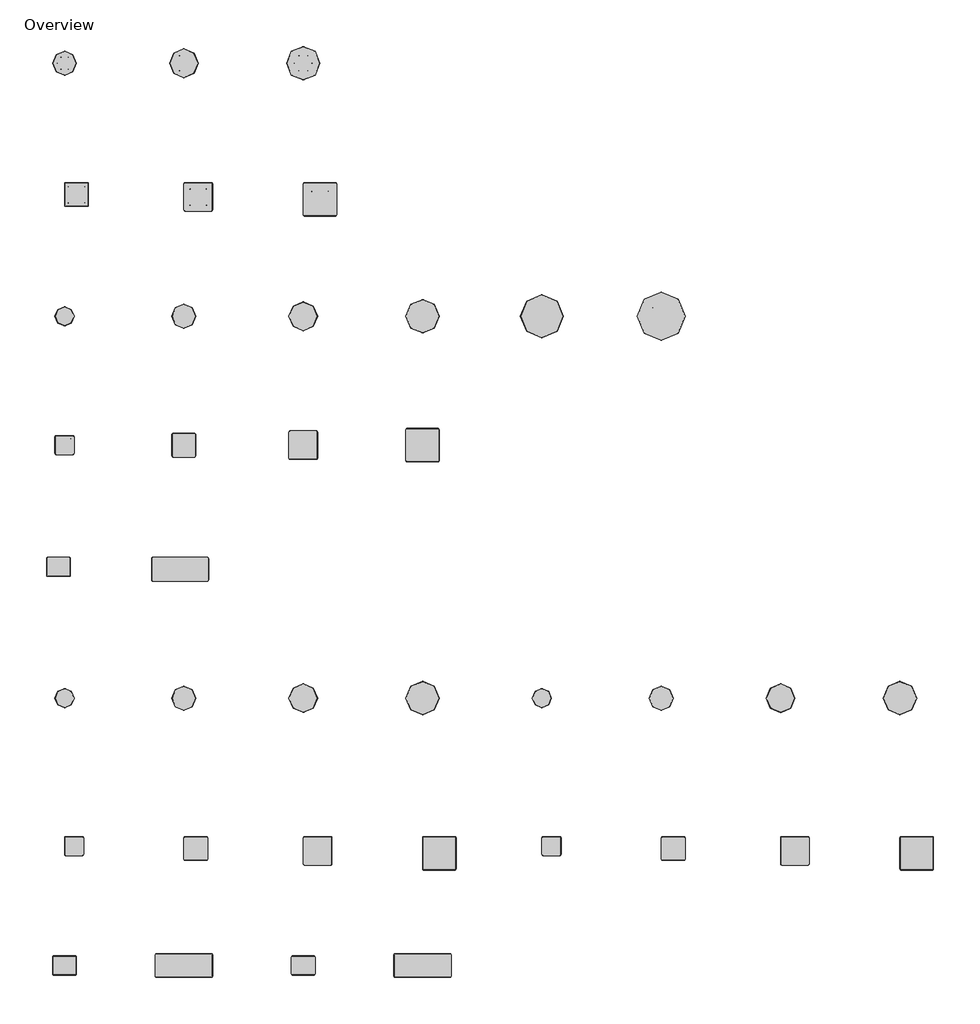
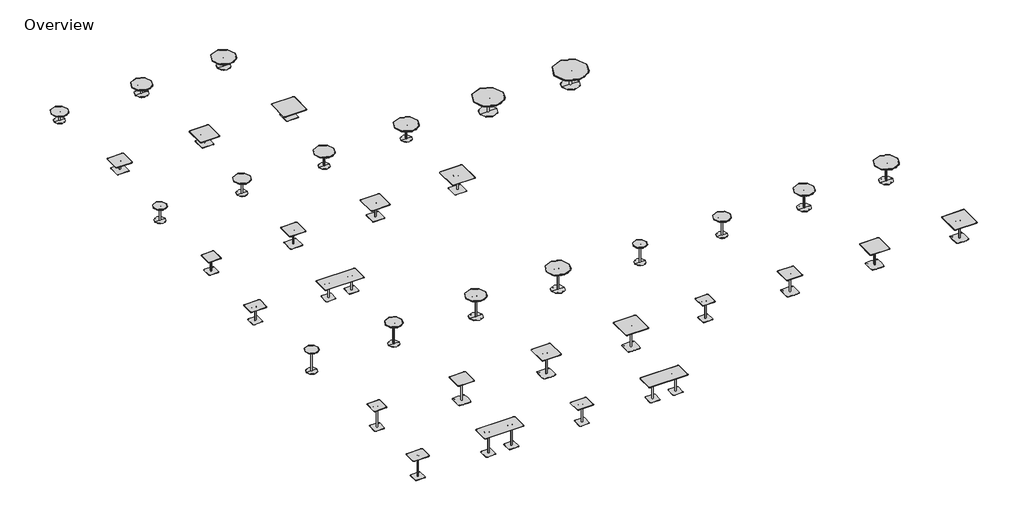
# One storey, incomplete: 38 furniture elements.
"""IFC4 building model written with IfcOpenShell, lengths in millimetres."""

from ifc_helpers import new_model, si_unit, origin, place, context, project, spatial, transform, mapped, element, save
from components import furniture_811100f7, furniture_10a75f7b, furniture_5980c282, furniture_6edd4ddf, furniture_d6c9ae74, furniture_c2a7fe05, furniture_79ca4e86, furniture_07d230b4, furniture_dcd677de, furniture_4e51bd29, furniture_301676fc, furniture_18e4f8cc, furniture_91c41395, furniture_204b8a26, furniture_3e236883, furniture_87283390, furniture_814abe16, furniture_5131879e, furniture_965f53b5, furniture_0e636609, furniture_fb8f0c13, furniture_24diameter_648c9b66, furniture_30dia_c0a6456b, furniture_30diameter_0b807904, furniture_36dia_86788407, furniture_36diameter_d4917d93, furniture_42dia_f3805051, furniture_42diameter_4c75da65, furniture_54diameter_4dd13a8e, furniture_60diameter_19c09006, bar_height_24dia_15a52b91, bar_height_30dia_bfdacb72, bar_height_36dia_994a4e56, bar_height_42dia_b9ada302, counter_height_24dia_68ba56fe, counter_height_30dia_2e3c6b03, counter_height_36dia_bfe26b46, counter_height_42dia_a2212860

model = new_model("IFC4")

# Units and contexts
model_context = context("Model", 3, world=origin())
ifc_project = project(units=[si_unit("LENGTHUNIT", "METRE", prefix="MILLI")], contexts=[model_context])

# Site, building, storey
site = spatial("IfcSite", under=ifc_project)
building = spatial("IfcBuilding", under=site)
storey = spatial("IfcBuildingStorey", under=building, Name="Overview", Elevation=0.0)

# Furniture
placement = place(None, origin())
furniture_shape = furniture_811100f7(model_context)
element("IfcFurniture", 1, ObjectType="Coalesse_AM_Table_Conference_Montara650_WorkHeight_Rectangular : 30D x 72W", at=placement, inside=storey, context=model_context, shape_type="MappedRepresentation", body=[
    mapped(furniture_shape, transform((-9624.7244889, -5738.5299366, 0.0), x_axis=(1.0, 0.0, 0.0), y_axis=(0.0, 1.0, 0.0), z_axis=(0.0, 0.0, 1.0))),
])
furniture_2_shape = furniture_10a75f7b(model_context)
element("IfcFurniture", 2, ObjectType="Coalesse_AM_Table_Occasional_Montara650Table_CafeHeight_Rectangular : Bar Height - 24D x 30W", at=placement, inside=storey, context=model_context, shape_type="MappedRepresentation", body=[
    mapped(furniture_2_shape, transform((-12783.8314372, -18387.7299366, 0.0), x_axis=(1.0, 0.0, 0.0), y_axis=(0.0, 1.0, 0.0), z_axis=(0.0, 0.0, 1.0))),
])
furniture_3_shape = furniture_5980c282(model_context)
element("IfcFurniture", 3, ObjectType="Coalesse_AM_Table_Occasional_Montara650Table_Square : 30D x 30W", at=placement, inside=storey, context=model_context, shape_type="MappedRepresentation", body=[
    mapped(furniture_3_shape, transform((-12936.2314372, 6224.8700634, 0.0), x_axis=(1.0, 0.0, 0.0), y_axis=(0.0, 1.0, 0.0), z_axis=(0.0, 0.0, 1.0))),
])
furniture_4_shape = furniture_6edd4ddf(model_context)
element("IfcFurniture", 4, ObjectType="Coalesse_AM_Table_Occasional_Montara650Table_Square : 36D x 36W", at=placement, inside=storey, context=model_context, shape_type="MappedRepresentation", body=[
    mapped(furniture_4_shape, transform((-9050.0314372, 6148.6700634, 0.0), x_axis=(1.0, 0.0, 0.0), y_axis=(0.0, 1.0, 0.0), z_axis=(0.0, 0.0, 1.0))),
])
furniture_5_shape = furniture_d6c9ae74(model_context)
element("IfcFurniture", 5, ObjectType="Coalesse_AM_Table_Occasional_Montara650Table_Square : 42D x 42W", at=placement, inside=storey, context=model_context, shape_type="MappedRepresentation", body=[
    mapped(furniture_5_shape, transform((-5163.8314372, 6072.4700634, 0.0), x_axis=(1.0, 0.0, 0.0), y_axis=(0.0, 1.0, 0.0), z_axis=(0.0, 0.0, 1.0))),
])
furniture_6_shape = furniture_c2a7fe05(model_context)
element("IfcFurniture", 6, ObjectType="Coalesse_AM_Table_Conference_Montara650_WorkHeight_Square : 30D x 30W", at=placement, inside=storey, context=model_context, shape_type="MappedRepresentation", body=[
    mapped(furniture_6_shape, transform((-9507.2314372, -1776.1299366, 0.0), x_axis=(1.0, 0.0, 0.0), y_axis=(0.0, 1.0, 0.0), z_axis=(0.0, 0.0, 1.0))),
])
furniture_7_shape = furniture_79ca4e86(model_context)
element("IfcFurniture", 7, ObjectType="Coalesse_AM_Table_Conference_Montara650_WorkHeight_Square : 36D x 36W", at=placement, inside=storey, context=model_context, shape_type="MappedRepresentation", body=[
    mapped(furniture_7_shape, transform((-5697.2314372, -1776.1299366, 0.0), x_axis=(1.0, 0.0, 0.0), y_axis=(0.0, 1.0, 0.0), z_axis=(0.0, 0.0, 1.0))),
])
furniture_8_shape = furniture_07d230b4(model_context)
element("IfcFurniture", 8, ObjectType="Coalesse_AM_Table_Conference_Montara650_WorkHeight_Square : 42D x 42W", at=placement, inside=storey, context=model_context, shape_type="MappedRepresentation", body=[
    mapped(furniture_8_shape, transform((-1887.2314372, -1776.1299366, 0.0), x_axis=(1.0, 0.0, 0.0), y_axis=(0.0, 1.0, 0.0), z_axis=(0.0, 0.0, 1.0))),
])
furniture_9_shape = furniture_dcd677de(model_context)
element("IfcFurniture", 9, ObjectType="Coalesse_AM_Table_Conference_Montara650_WorkHeight_Square : 24D x 24W", at=placement, inside=storey, context=model_context, shape_type="MappedRepresentation", body=[
    mapped(furniture_9_shape, transform((-13317.2314372, -1776.1299366, 0.0), x_axis=(1.0, 0.0, 0.0), y_axis=(0.0, 1.0, 0.0), z_axis=(0.0, 0.0, 1.0))),
])
furniture_10_shape = furniture_4e51bd29(model_context)
element("IfcFurniture", 10, ObjectType="Coalesse_AM_Table_Occasional_Montara650Table_CafeHeight_Square : Bar Height - 30D x 30W", at=placement, inside=storey, context=model_context, shape_type="MappedRepresentation", body=[
    mapped(furniture_10_shape, transform((-9126.2314372, -14653.9299366, 0.0), x_axis=(1.0, 0.0, 0.0), y_axis=(0.0, 1.0, 0.0), z_axis=(0.0, 0.0, 1.0))),
])
furniture_11_shape = furniture_301676fc(model_context)
element("IfcFurniture", 11, ObjectType="Coalesse_AM_Table_Occasional_Montara650Table_CafeHeight_Square : Bar Height - 36D x 36W", at=placement, inside=storey, context=model_context, shape_type="MappedRepresentation", body=[
    mapped(furniture_11_shape, transform((-5240.0314372, -14730.1299366, 0.0), x_axis=(1.0, 0.0, 0.0), y_axis=(0.0, 1.0, 0.0), z_axis=(0.0, 0.0, 1.0))),
])
furniture_12_shape = furniture_18e4f8cc(model_context)
element("IfcFurniture", 12, ObjectType="Coalesse_AM_Table_Occasional_Montara650Table_CafeHeight_Square : Counter Height - 42D x 42W", at=placement, inside=storey, context=model_context, shape_type="MappedRepresentation", body=[
    mapped(furniture_12_shape, transform((13886.1685628, -14806.3299366, 0.0), x_axis=(1.0, 0.0, 0.0), y_axis=(0.0, 1.0, 0.0), z_axis=(0.0, 0.0, 1.0))),
])
furniture_13_shape = furniture_91c41395(model_context)
element("IfcFurniture", 13, ObjectType="Coalesse_AM_Table_Occasional_Montara650Table_CafeHeight_Square : Counter Height - 24D x 24W", at=placement, inside=storey, context=model_context, shape_type="MappedRepresentation", body=[
    mapped(furniture_13_shape, transform((2227.5685628, -14577.7299366, 0.0), x_axis=(1.0, 0.0, 0.0), y_axis=(0.0, 1.0, 0.0), z_axis=(0.0, 0.0, 1.0))),
])
furniture_14_shape = furniture_204b8a26(model_context)
element("IfcFurniture", 14, ObjectType="Coalesse_AM_Table_Occasional_Montara650Table_CafeHeight_Square : Bar Height - 24D x 24W", at=placement, inside=storey, context=model_context, shape_type="MappedRepresentation", body=[
    mapped(furniture_14_shape, transform((-13012.4314372, -14577.7299366, 0.0), x_axis=(1.0, 0.0, 0.0), y_axis=(0.0, 1.0, 0.0), z_axis=(0.0, 0.0, 1.0))),
])
furniture_15_shape = furniture_3e236883(model_context)
element("IfcFurniture", 15, ObjectType="Coalesse_AM_Table_Occasional_Montara650Table_CafeHeight_Square : Counter Height - 30D x 30W", at=placement, inside=storey, context=model_context, shape_type="MappedRepresentation", body=[
    mapped(furniture_15_shape, transform((6113.7685628, -14653.9299366, 0.0), x_axis=(1.0, 0.0, 0.0), y_axis=(0.0, 1.0, 0.0), z_axis=(0.0, 0.0, 1.0))),
])
furniture_16_shape = furniture_87283390(model_context)
element("IfcFurniture", 16, ObjectType="Coalesse_AM_Table_Occasional_Montara650Table_CafeHeight_Square : Counter Height - 36D x 36W", at=placement, inside=storey, context=model_context, shape_type="MappedRepresentation", body=[
    mapped(furniture_16_shape, transform((9999.9685628, -14730.1299366, 0.0), x_axis=(1.0, 0.0, 0.0), y_axis=(0.0, 1.0, 0.0), z_axis=(0.0, 0.0, 1.0))),
])
furniture_17_shape = furniture_814abe16(model_context)
element("IfcFurniture", 17, ObjectType="Coalesse_AM_Table_Occasional_Montara650Table_CafeHeight_Square : Bar Height - 42D x 42W", at=placement, inside=storey, context=model_context, shape_type="MappedRepresentation", body=[
    mapped(furniture_17_shape, transform((-1353.8314372, -14806.3299366, 0.0), x_axis=(1.0, 0.0, 0.0), y_axis=(0.0, 1.0, 0.0), z_axis=(0.0, 0.0, 1.0))),
])
furniture_18_shape = furniture_5131879e(model_context)
element("IfcFurniture", 18, ObjectType="Coalesse_AM_Table_Occasional_Montara650Table_CafeHeight_Rectangular : Counter Height - 24D x 30W", at=placement, inside=storey, context=model_context, shape_type="MappedRepresentation", body=[
    mapped(furniture_18_shape, transform((-5163.8314372, -18387.7299366, 0.0), x_axis=(1.0, 0.0, 0.0), y_axis=(0.0, 1.0, 0.0), z_axis=(0.0, 0.0, 1.0))),
])
furniture_19_shape = furniture_965f53b5(model_context)
element("IfcFurniture", 19, ObjectType="Coalesse_AM_Table_Occasional_Montara650Table_CafeHeight_Rectangular : Counter Height - 30D x 72W", at=placement, inside=storey, context=model_context, shape_type="MappedRepresentation", body=[
    mapped(furniture_19_shape, transform((-1887.2314372, -18387.7299366, 0.0), x_axis=(1.0, 0.0, 0.0), y_axis=(0.0, 1.0, 0.0), z_axis=(0.0, 0.0, 1.0))),
])
furniture_20_shape = furniture_0e636609(model_context)
element("IfcFurniture", 20, ObjectType="Coalesse_AM_Table_Occasional_Montara650Table_CafeHeight_Rectangular : Bar Height - 30D x 72W", at=placement, inside=storey, context=model_context, shape_type="MappedRepresentation", body=[
    mapped(furniture_20_shape, transform((-9507.2314372, -18387.7299366, 0.0), x_axis=(1.0, 0.0, 0.0), y_axis=(0.0, 1.0, 0.0), z_axis=(0.0, 0.0, 1.0))),
])
furniture_21_shape = furniture_fb8f0c13(model_context)
element("IfcFurniture", 21, ObjectType="Coalesse_AM_Table_Conference_Montara650_WorkHeight_Rectangular : 24D x 30W", at=placement, inside=storey, context=model_context, shape_type="MappedRepresentation", body=[
    mapped(furniture_21_shape, transform((-12977.5244889, -5662.3299366, 0.0), x_axis=(1.0, 0.0, 0.0), y_axis=(0.0, 1.0, 0.0), z_axis=(0.0, 0.0, 1.0))),
])
furniture_24diameter_shape = furniture_24diameter_648c9b66(model_context)
element("IfcFurniture", 22, ObjectType="Coalesse_AM_Table_Conference_Montara650_WorkHeight_Round : 24Diameter", at=placement, inside=storey, context=model_context, shape_type="MappedRepresentation", body=[
    mapped(furniture_24diameter_shape, transform((-13317.2314372, 2338.6700634, 0.0), x_axis=(1.0, 0.0, 0.0), y_axis=(0.0, 1.0, 0.0), z_axis=(0.0, 0.0, 1.0))),
])
furniture_30dia_shape = furniture_30dia_c0a6456b(model_context)
element("IfcFurniture", 23, ObjectType="Coalesse_AM_Table_Occasional_Montara650Table_Round : 30Dia", at=placement, inside=storey, context=model_context, shape_type="MappedRepresentation", body=[
    mapped(furniture_30dia_shape, transform((-13317.2314372, 10415.8700634, 0.0), x_axis=(1.0, 0.0, 0.0), y_axis=(0.0, 1.0, 0.0), z_axis=(0.0, 0.0, 1.0))),
])
furniture_30diameter_shape = furniture_30diameter_0b807904(model_context)
element("IfcFurniture", 24, ObjectType="Coalesse_AM_Table_Conference_Montara650_WorkHeight_Round : 30Diameter", at=placement, inside=storey, context=model_context, shape_type="MappedRepresentation", body=[
    mapped(furniture_30diameter_shape, transform((-9507.2314372, 2338.6700634, 0.0), x_axis=(1.0, 0.0, 0.0), y_axis=(0.0, 1.0, 0.0), z_axis=(0.0, 0.0, 1.0))),
])
furniture_36dia_shape = furniture_36dia_86788407(model_context)
element("IfcFurniture", 25, ObjectType="Coalesse_AM_Table_Occasional_Montara650Table_Round : 36Dia", at=placement, inside=storey, context=model_context, shape_type="MappedRepresentation", body=[
    mapped(furniture_36dia_shape, transform((-9507.2314372, 10415.8700634, 0.0), x_axis=(1.0, 0.0, 0.0), y_axis=(0.0, 1.0, 0.0), z_axis=(0.0, 0.0, 1.0))),
])
furniture_36diameter_shape = furniture_36diameter_d4917d93(model_context)
element("IfcFurniture", 26, ObjectType="Coalesse_AM_Table_Conference_Montara650_WorkHeight_Round : 36Diameter", at=placement, inside=storey, context=model_context, shape_type="MappedRepresentation", body=[
    mapped(furniture_36diameter_shape, transform((-5697.2314372, 2338.6700634, 0.0), x_axis=(1.0, 0.0, 0.0), y_axis=(0.0, 1.0, 0.0), z_axis=(0.0, 0.0, 1.0))),
])
furniture_42dia_shape = furniture_42dia_f3805051(model_context)
element("IfcFurniture", 27, ObjectType="Coalesse_AM_Table_Occasional_Montara650Table_Round : 42Dia", at=placement, inside=storey, context=model_context, shape_type="MappedRepresentation", body=[
    mapped(furniture_42dia_shape, transform((-5697.2314372, 10415.8700634, 0.0), x_axis=(1.0, 0.0, 0.0), y_axis=(0.0, 1.0, 0.0), z_axis=(0.0, 0.0, 1.0))),
])
furniture_42diameter_shape = furniture_42diameter_4c75da65(model_context)
element("IfcFurniture", 28, ObjectType="Coalesse_AM_Table_Conference_Montara650_WorkHeight_Round : 42Diameter", at=placement, inside=storey, context=model_context, shape_type="MappedRepresentation", body=[
    mapped(furniture_42diameter_shape, transform((-1887.2314372, 2338.6700634, 0.0), x_axis=(1.0, 0.0, 0.0), y_axis=(0.0, 1.0, 0.0), z_axis=(0.0, 0.0, 1.0))),
])
furniture_54diameter_shape = furniture_54diameter_4dd13a8e(model_context)
element("IfcFurniture", 29, ObjectType="Coalesse_AM_Table_Conference_Montara650_WorkHeight_Round : 54Diameter", at=placement, inside=storey, context=model_context, shape_type="MappedRepresentation", body=[
    mapped(furniture_54diameter_shape, transform((1922.7685628, 2338.6700634, 0.0), x_axis=(1.0, 0.0, 0.0), y_axis=(0.0, 1.0, 0.0), z_axis=(0.0, 0.0, 1.0))),
])
furniture_60diameter_shape = furniture_60diameter_19c09006(model_context)
element("IfcFurniture", 30, ObjectType="Coalesse_AM_Table_Conference_Montara650_WorkHeight_Round : 60Diameter", at=placement, inside=storey, context=model_context, shape_type="MappedRepresentation", body=[
    mapped(furniture_60diameter_shape, transform((5732.7685628, 2338.6700634, 0.0), x_axis=(1.0, 0.0, 0.0), y_axis=(0.0, 1.0, 0.0), z_axis=(0.0, 0.0, 1.0))),
])
bar_height_24dia_shape = bar_height_24dia_15a52b91(model_context)
element("IfcFurniture", 31, ObjectType="Coalesse_AM_Table_Occasional_Montara650Table_CafeHeight_Round : Bar Height - 24Dia", at=placement, inside=storey, context=model_context, shape_type="MappedRepresentation", body=[
    mapped(bar_height_24dia_shape, transform((-13317.2314372, -9853.3299366, 0.0), x_axis=(1.0, 0.0, 0.0), y_axis=(0.0, 1.0, 0.0), z_axis=(0.0, 0.0, 1.0))),
])
bar_height_30dia_shape = bar_height_30dia_bfdacb72(model_context)
element("IfcFurniture", 32, ObjectType="Coalesse_AM_Table_Occasional_Montara650Table_CafeHeight_Round : Bar Height - 30Dia", at=placement, inside=storey, context=model_context, shape_type="MappedRepresentation", body=[
    mapped(bar_height_30dia_shape, transform((-9507.2314372, -9853.3299366, 0.0), x_axis=(1.0, 0.0, 0.0), y_axis=(0.0, 1.0, 0.0), z_axis=(0.0, 0.0, 1.0))),
])
bar_height_36dia_shape = bar_height_36dia_994a4e56(model_context)
element("IfcFurniture", 33, ObjectType="Coalesse_AM_Table_Occasional_Montara650Table_CafeHeight_Round : Bar Height - 36Dia", at=placement, inside=storey, context=model_context, shape_type="MappedRepresentation", body=[
    mapped(bar_height_36dia_shape, transform((-5697.2314372, -9853.3299366, 0.0), x_axis=(1.0, 0.0, 0.0), y_axis=(0.0, 1.0, 0.0), z_axis=(0.0, 0.0, 1.0))),
])
bar_height_42dia_shape = bar_height_42dia_b9ada302(model_context)
element("IfcFurniture", 34, ObjectType="Coalesse_AM_Table_Occasional_Montara650Table_CafeHeight_Round : Bar Height - 42Dia", at=placement, inside=storey, context=model_context, shape_type="MappedRepresentation", body=[
    mapped(bar_height_42dia_shape, transform((-1887.2314372, -9853.3299366, 0.0), x_axis=(1.0, 0.0, 0.0), y_axis=(0.0, 1.0, 0.0), z_axis=(0.0, 0.0, 1.0))),
])
counter_height_24dia_shape = counter_height_24dia_68ba56fe(model_context)
element("IfcFurniture", 35, ObjectType="Coalesse_AM_Table_Occasional_Montara650Table_CafeHeight_Round : Counter Height - 24Dia", at=placement, inside=storey, context=model_context, shape_type="MappedRepresentation", body=[
    mapped(counter_height_24dia_shape, transform((1922.7685628, -9853.3299366, 0.0), x_axis=(1.0, 0.0, 0.0), y_axis=(0.0, 1.0, 0.0), z_axis=(0.0, 0.0, 1.0))),
])
counter_height_30dia_shape = counter_height_30dia_2e3c6b03(model_context)
element("IfcFurniture", 36, ObjectType="Coalesse_AM_Table_Occasional_Montara650Table_CafeHeight_Round : Counter Height - 30Dia", at=placement, inside=storey, context=model_context, shape_type="MappedRepresentation", body=[
    mapped(counter_height_30dia_shape, transform((5732.7685628, -9853.3299366, 0.0), x_axis=(1.0, 0.0, 0.0), y_axis=(0.0, 1.0, 0.0), z_axis=(0.0, 0.0, 1.0))),
])
counter_height_36dia_shape = counter_height_36dia_bfe26b46(model_context)
element("IfcFurniture", 37, ObjectType="Coalesse_AM_Table_Occasional_Montara650Table_CafeHeight_Round : Counter Height - 36Dia", at=placement, inside=storey, context=model_context, shape_type="MappedRepresentation", body=[
    mapped(counter_height_36dia_shape, transform((9542.7685628, -9853.3299366, 0.0), x_axis=(1.0, 0.0, 0.0), y_axis=(0.0, 1.0, 0.0), z_axis=(0.0, 0.0, 1.0))),
])
counter_height_42dia_shape = counter_height_42dia_a2212860(model_context)
element("IfcFurniture", 38, ObjectType="Coalesse_AM_Table_Occasional_Montara650Table_CafeHeight_Round : Counter Height - 42Dia", at=placement, inside=storey, context=model_context, shape_type="MappedRepresentation", body=[
    mapped(counter_height_42dia_shape, transform((13352.7685628, -9853.3299366, 0.0), x_axis=(1.0, 0.0, 0.0), y_axis=(0.0, 1.0, 0.0), z_axis=(0.0, 0.0, 1.0))),
])

save(model, "model.ifc")
